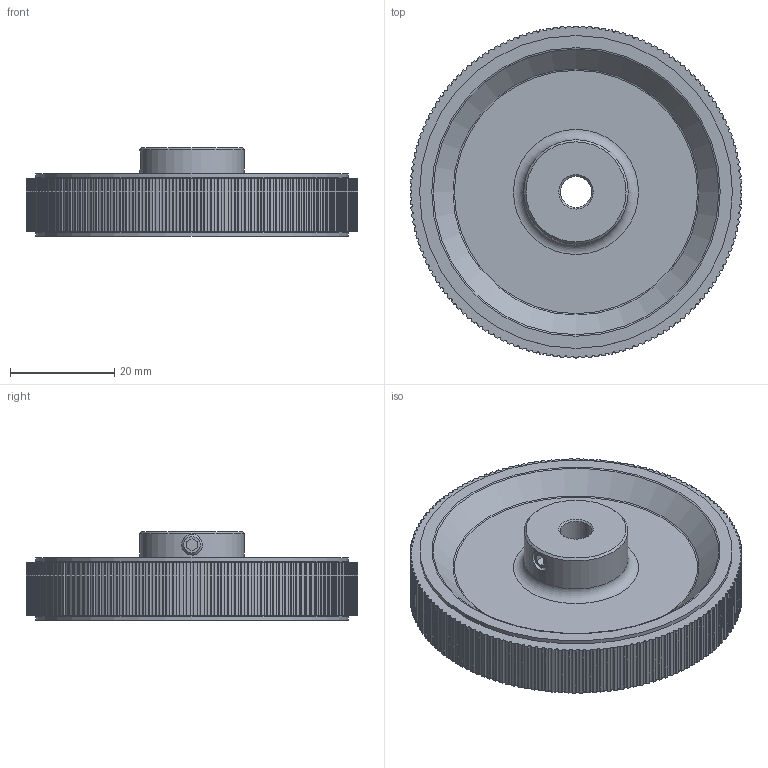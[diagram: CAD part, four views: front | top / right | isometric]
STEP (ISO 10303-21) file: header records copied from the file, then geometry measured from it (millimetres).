
FILE_DESCRIPTION( ( 'STEP AP203' ), '1' );
FILE_NAME( '//expscmdclustefs.cadenas.external/client_exchange/iodir/jobs/output/wkb81191854_no0/STEP/E60137_2_03.stp', ' ', ( ' ' ), ( ' ' ), 'PSStep 15.0.47', 'PARTsolutions', ' ' );
FILE_SCHEMA( ( 'CONFIG_CONTROL_DESIGN' ) );
Length unit declared in the file: millimetre
Products named in the file (1): _E60137
Bounding box: 63.66 x 63.66 x 17 mm (x, y, z)
Volume: 24467.5 mm3; surface area: 11110.1 mm2
Topology: 1 solids, 1 shells, 642 faces, 1881 edges, 1249 vertices
Faces by surface type: plane 318, cylinder 309, cone 9, torus 6
Full cylindrical faces by diameter (mm): 4 x2, 6 x1, 20 x2, 58.9 x2, 60 x2
Entity records: 21456 total; most frequent: CARTESIAN_POINT 3850, DIRECTION 3768, ORIENTED_EDGE 3704, EDGE_CURVE 1852, AXIS2_PLACEMENT_3D 1275, VERTEX_POINT 1247, LINE 1218, VECTOR 1218
